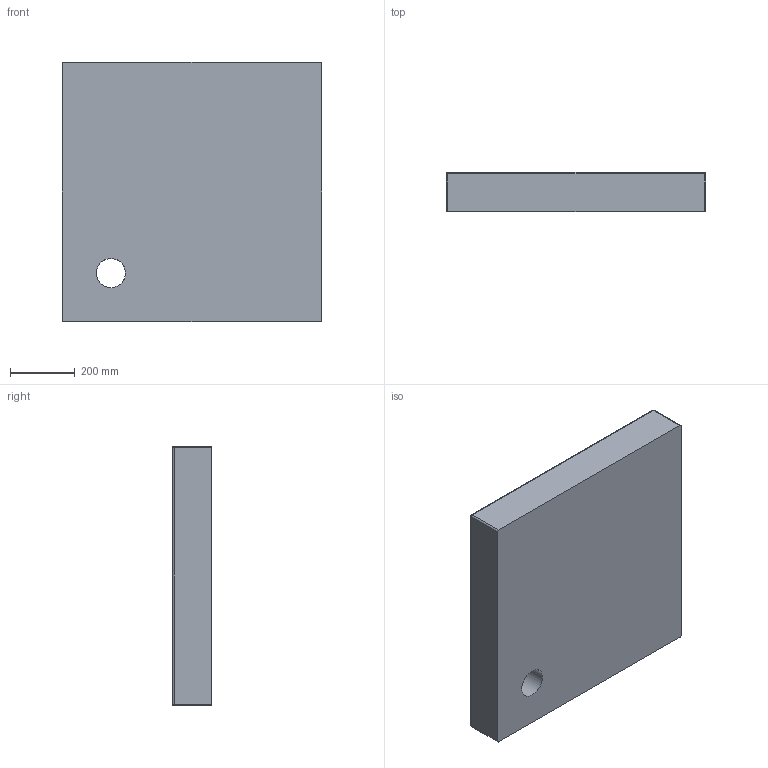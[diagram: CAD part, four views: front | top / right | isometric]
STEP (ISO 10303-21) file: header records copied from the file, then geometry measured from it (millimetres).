
FILE_DESCRIPTION(/* description */ (''),/* implementation_level */ '2;1');
FILE_NAME(/* name */ 'c:\worker\convert-fusion-r09\tmp\job-1\12\output\files\f7945aaf-f5b4-412a-bb89-48759f92e9bf\7ecb8994-49ea-4d29-a765-c3d0536df4fa.stp',/* time_stamp */ '2020-01-03T09:43:14+00:00',/* author */ (''),/* organization */ (''),/* preprocessor_version */ 'ST-DEVELOPER v18',/* originating_system */ 'Autodesk Translation Framework v8.12.0.6',/* authorisation */ '');
FILE_SCHEMA (('AUTOMOTIVE_DESIGN { 1 0 10303 214 3 1 1 }'));
Length unit declared in the file: millimetre
Products named in the file (1): Camden 80/K
Bounding box: 800 x 120 x 800 mm (x, y, z)
Volume: 66021107.2 mm3; surface area: 1714284.8 mm2
Topology: 1 solids, 1 shells, 47 faces, 98 edges, 54 vertices
Faces by surface type: cylinder 21, plane 11, sphere 8, torus 4, bspline 3
Full cylindrical faces by diameter (mm): 90 x1
Entity records: 1796 total; most frequent: CARTESIAN_POINT 746, DIRECTION 230, ORIENTED_EDGE 198, EDGE_CURVE 99, AXIS2_PLACEMENT_3D 92, VERTEX_POINT 55, EDGE_LOOP 50, FACE_OUTER_BOUND 47
